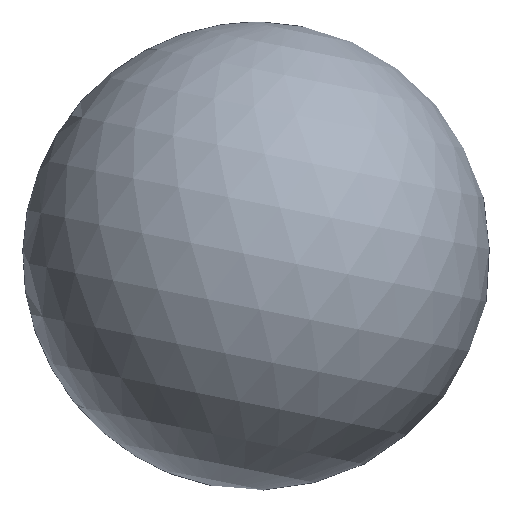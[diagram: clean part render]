
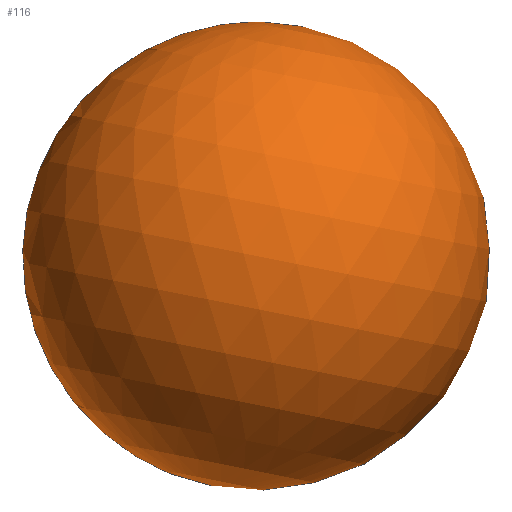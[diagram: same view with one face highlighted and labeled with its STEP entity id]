
A CAD part, front view. The second image highlights one B-rep face of the part: STEP entity #116.
In plain terms, the highlighted spherical face has radius 390 mm.
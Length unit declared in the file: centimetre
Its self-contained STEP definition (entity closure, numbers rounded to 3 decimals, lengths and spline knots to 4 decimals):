
#31=FACE_OUTER_BOUND('',#40,.T.);
#40=EDGE_LOOP('',(#80,#81));
#51=CIRCLE('',#147,39.);
#59=VERTEX_POINT('',#204);
#60=VERTEX_POINT('',#205);
#69=EDGE_CURVE('',#59,#60,#51,.T.);
#80=ORIENTED_EDGE('',*,*,#69,.T.);
#81=ORIENTED_EDGE('',*,*,#69,.F.);
#102=SPHERICAL_SURFACE('',#146,39.);
#116=ADVANCED_FACE('',(#31),#102,.T.);
#146=AXIS2_PLACEMENT_3D('',#203,#165,#166);
#147=AXIS2_PLACEMENT_3D('',#206,#167,#168);
#165=DIRECTION('center_axis',(-0.196,0.,-0.981));
#166=DIRECTION('ref_axis',(0.981,0.,-0.196));
#167=DIRECTION('center_axis',(0.,1.,0.));
#168=DIRECTION('ref_axis',(-0.981,0.,0.196));
#203=CARTESIAN_POINT('Origin',(0.,-36.7,0.));
#204=CARTESIAN_POINT('',(-7.6309,-36.7,-38.2462));
#205=CARTESIAN_POINT('',(7.6309,-36.7,38.2462));
#206=CARTESIAN_POINT('Origin',(0.,-36.7,0.));
